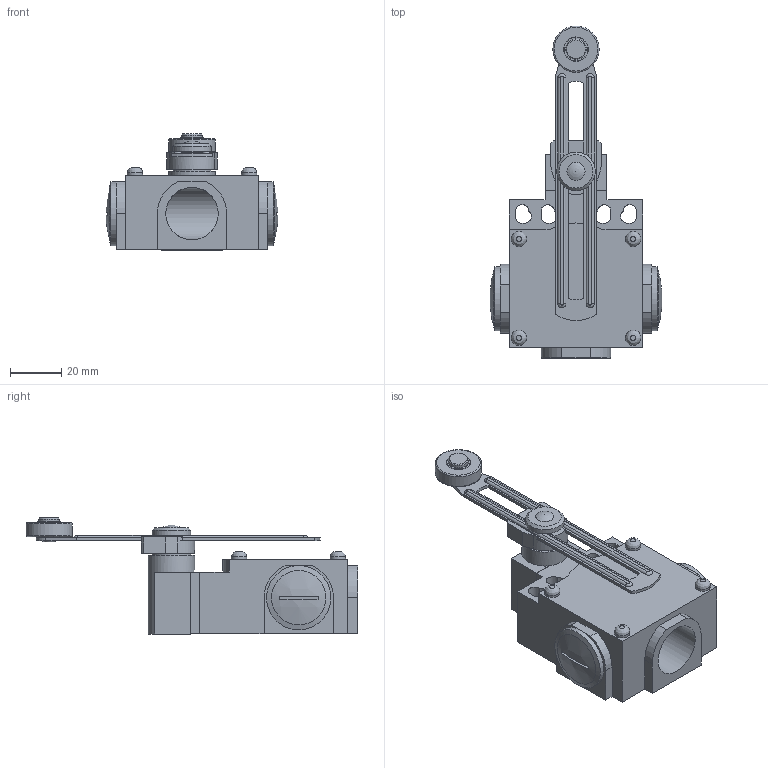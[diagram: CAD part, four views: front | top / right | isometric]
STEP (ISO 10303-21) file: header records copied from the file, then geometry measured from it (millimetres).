
FILE_DESCRIPTION((''),'2;1');
FILE_NAME('D:\Documenti_D\Corrispondenza\Comepi\Catalogo da fare\Modelli Nov 2011\DM e CM\STEP\DM1-F51.iam.step','2011-11-17T12:01:01',(''),(''),'Autodesk Inventor 2010','Autodesk Inventor 2010','');
FILE_SCHEMA(('AUTOMOTIVE_DESIGN { 1 0 10303 214 1 1 1 1 }'));
Length unit declared in the file: millimetre
Products named in the file (8): DM1-F51; DM1; tappo; T51.iam; T51_1; T51_2; T51_3
Assembly tree (8 placements, depth 3):
  DM1-F51
    DM1
      DM1
      tappo  x2
    T51.iam
      T51_1
      T51_2
      T51_3
Bounding box: 66.83 x 129 x 45.1 mm (x, y, z)
Volume: 85205.1 mm3; surface area: 30007.5 mm2
Topology: 7 solids, 7 shells, 163 faces, 391 edges, 257 vertices
Faces by surface type: plane 96, cylinder 44, bspline 8, cone 7, torus 5, sphere 3
Full cylindrical faces by diameter (mm): 6 x6, 7 x1, 8 x1, 15 x2, 18 x2, 20.4 x2, 25 x2
Entity records: 4977 total; most frequent: CARTESIAN_POINT 1171, DIRECTION 778, ORIENTED_EDGE 668, EDGE_CURVE 334, AXIS2_PLACEMENT_3D 284, VERTEX_POINT 237, EDGE_LOOP 213, VECTOR 210
